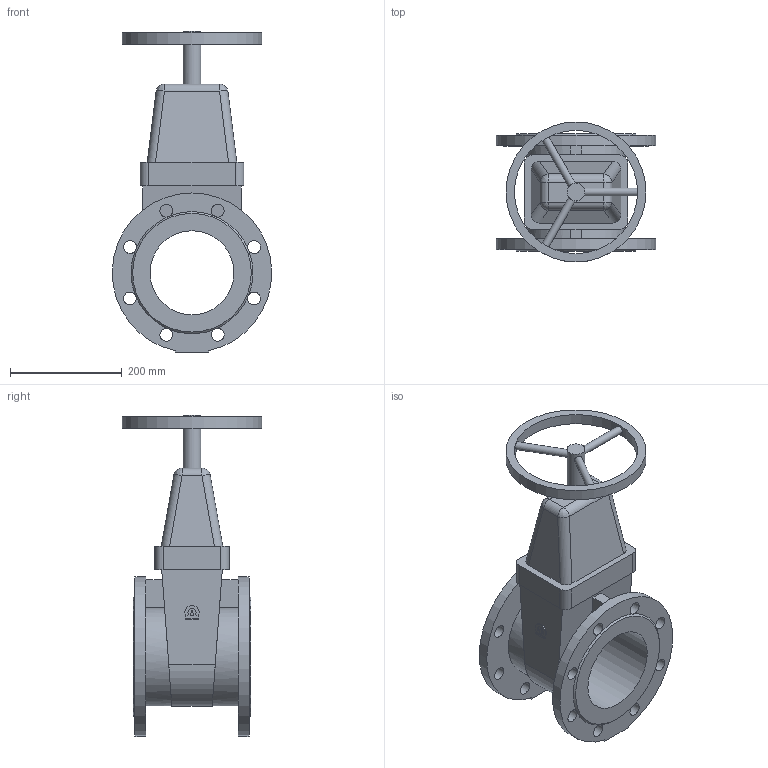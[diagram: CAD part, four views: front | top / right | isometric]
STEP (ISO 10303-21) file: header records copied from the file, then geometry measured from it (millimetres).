
FILE_DESCRIPTION(('STEP AP203'), '1');
FILE_NAME('Çàäâèæêà 47GV DN150 PN10_PN16_L210 ñ ìàõîâèêîì', '', ('UNSPECIFIED'), ('UNSPECIFIED'), 'ASCON STEP Converter 1.6', 'ASCON Math Kernel', '');
FILE_SCHEMA(('CONFIG_CONTROL_DESIGN'));
Length unit declared in the file: millimetre
Bounding box: 284.94 x 250 x 573.5 mm (x, y, z)
Volume: 7566594.8 mm3; surface area: 624282.9 mm2
Topology: 1 solids, 1 shells, 105 faces, 307 edges, 196 vertices
Faces by surface type: plane 51, cylinder 48, bspline 4, cone 2
Full cylindrical faces by diameter (mm): 14 x3, 23 x16, 32 x1, 150 x1, 220 x1, 250 x1
Entity records: 5845 total; most frequent: CARTESIAN_POINT 2226, DIRECTION 560, ORIENTED_EDGE 556, EDGE_CURVE 278, AXIS2_PLACEMENT_3D 218, VERTEX_POINT 196, EDGE_LOOP 166, FACE_BOUND 134
